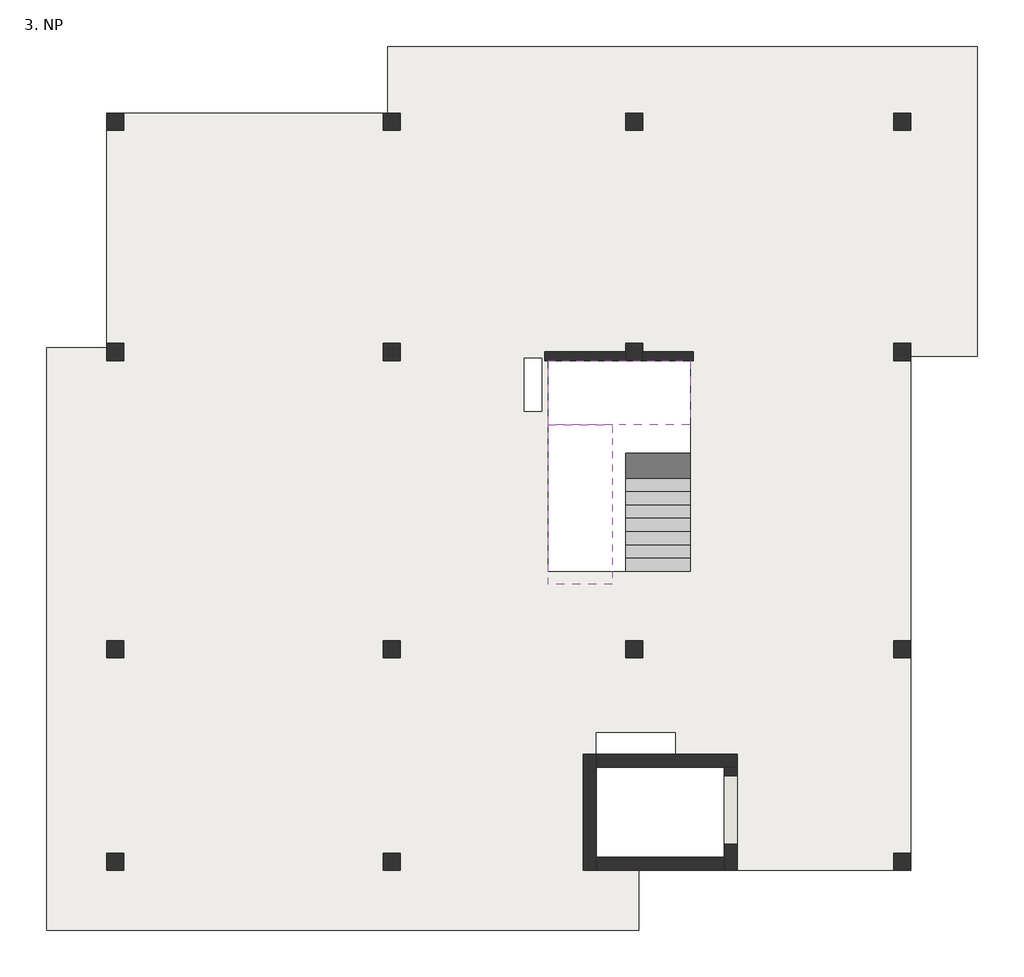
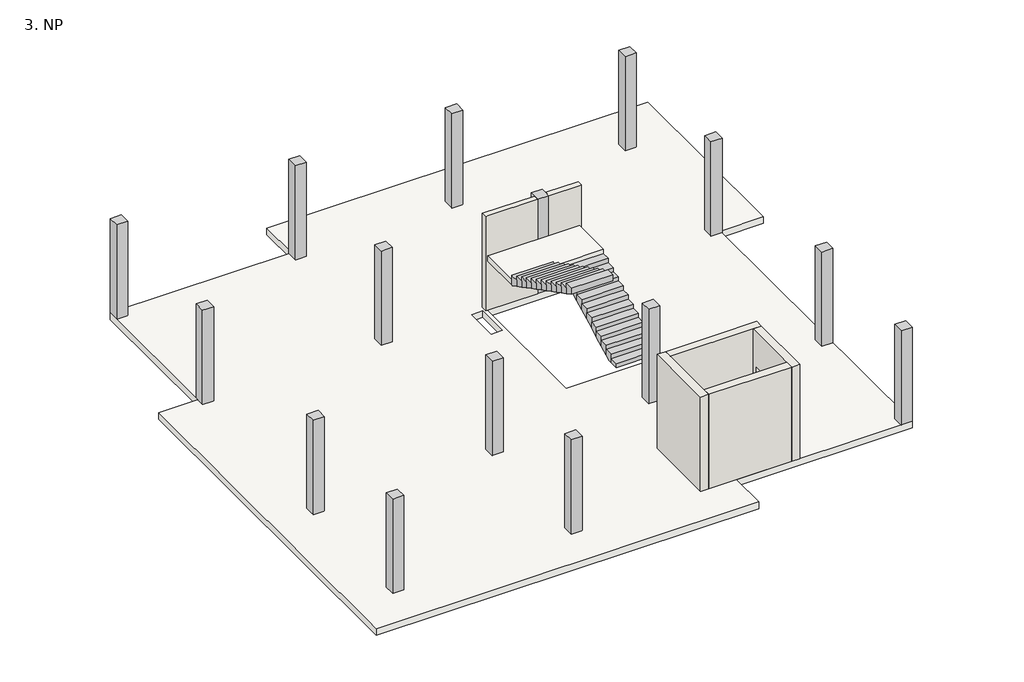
# One storey: 15 columns, 6 walls, 2 slabs, 2 stair flights.
"""IFC4 building model written with IfcOpenShell, lengths in millimetres."""

from ifc_helpers import new_model, si_unit, frame, origin, place, context, project, spatial, polyline, outline, extrude, faceted_brep, element, save

model = new_model("IFC4")

# Units and contexts
model_context = context("Model", 3, world=origin())
ifc_project = project(units=[si_unit("LENGTHUNIT", "METRE", prefix="MILLI")], contexts=[model_context])

# Site, building, storey
site = spatial("IfcSite", under=ifc_project)
building = spatial("IfcBuilding", under=site)
storey = spatial("IfcBuildingStorey", under=building, Name="3. NP", Elevation=9000.0)

# Columns
placement = place(None, origin())
element("IfcColumn", 1, ObjectType="K_Sloup obdélník : 400 x 400 mm", at=placement, inside=storey, context=model_context, shape_type="SweptSolid", body=[
    extrude(outline(polyline([(-9527.9308562, -5396.7473289), (-9527.9308562, -5796.7473289), (-9927.9308562, -5796.7473289), (-9927.9308562, -5396.7473289), (-9527.9308562, -5396.7473289)])), frame((0.0, 0.0, 8850.0), z_axis=(0.0, 0.0, 1.0), x_axis=(1.0, 0.0, 0.0)), (0.0, 0.0, 1.0), 3600.0),
])
element("IfcColumn", 2, ObjectType="K_Sloup obdélník : 400 x 400 mm", at=placement, inside=storey, context=model_context, shape_type="SweptSolid", body=[
    extrude(outline(polyline([(-3077.9308562, -5396.7473289), (-3077.9308562, -5796.7473289), (-3477.9308562, -5796.7473289), (-3477.9308562, -5396.7473289), (-3077.9308562, -5396.7473289)])), frame((0.0, 0.0, 8850.0), z_axis=(0.0, 0.0, 1.0), x_axis=(1.0, 0.0, 0.0)), (0.0, 0.0, 1.0), 3600.0),
])
element("IfcColumn", 3, ObjectType="K_Sloup obdélník : 400 x 400 mm", at=placement, inside=storey, context=model_context, shape_type="SweptSolid", body=[
    extrude(outline(polyline([(8822.0691438, -5396.7473289), (8822.0691438, -5796.7473289), (8422.0691438, -5796.7473289), (8422.0691438, -5396.7473289), (8822.0691438, -5396.7473289)])), frame((0.0, 0.0, 8850.0), z_axis=(0.0, 0.0, 1.0), x_axis=(1.0, 0.0, 0.0)), (0.0, 0.0, 1.0), 3600.0),
])
element("IfcColumn", 4, ObjectType="K_Sloup obdélník : 400 x 400 mm", at=placement, inside=storey, context=model_context, shape_type="SweptSolid", body=[
    extrude(outline(polyline([(-9527.9308562, -446.7473314), (-9527.9308562, -846.7473314), (-9927.9308562, -846.7473314), (-9927.9308562, -446.7473314), (-9527.9308562, -446.7473314)])), frame((0.0, 0.0, 8850.0), z_axis=(0.0, 0.0, 1.0), x_axis=(1.0, 0.0, 0.0)), (0.0, 0.0, 1.0), 3600.0),
])
element("IfcColumn", 5, ObjectType="K_Sloup obdélník : 400 x 400 mm", at=placement, inside=storey, context=model_context, shape_type="SweptSolid", body=[
    extrude(outline(polyline([(-3077.9308562, -446.7473314), (-3077.9308562, -846.7473314), (-3477.9308562, -846.7473314), (-3477.9308562, -446.7473314), (-3077.9308562, -446.7473314)])), frame((0.0, 0.0, 8850.0), z_axis=(0.0, 0.0, 1.0), x_axis=(1.0, 0.0, 0.0)), (0.0, 0.0, 1.0), 3600.0),
])
element("IfcColumn", 6, ObjectType="K_Sloup obdélník : 400 x 400 mm", at=placement, inside=storey, context=model_context, shape_type="SweptSolid", body=[
    extrude(outline(polyline([(8822.0691438, -446.7473314), (8822.0691438, -846.7473314), (8422.0691438, -846.7473314), (8422.0691438, -446.7473314), (8822.0691438, -446.7473314)])), frame((0.0, 0.0, 8850.0), z_axis=(0.0, 0.0, 1.0), x_axis=(1.0, 0.0, 0.0)), (0.0, 0.0, 1.0), 3600.0),
])
element("IfcColumn", 7, ObjectType="K_Sloup obdélník : 400 x 400 mm", at=placement, inside=storey, context=model_context, shape_type="SweptSolid", body=[
    extrude(outline(polyline([(-9527.9308562, 6483.2526657), (-9527.9308562, 6083.2526657), (-9927.9308562, 6083.2526657), (-9927.9308562, 6483.2526657), (-9527.9308562, 6483.2526657)])), frame((0.0, 0.0, 8850.0), z_axis=(0.0, 0.0, 1.0), x_axis=(1.0, 0.0, 0.0)), (0.0, 0.0, 1.0), 3600.0),
])
element("IfcColumn", 8, ObjectType="K_Sloup obdélník : 400 x 400 mm", at=placement, inside=storey, context=model_context, shape_type="SweptSolid", body=[
    extrude(outline(polyline([(-3077.9308562, 6483.2526657), (-3077.9308562, 6083.2526657), (-3477.9308562, 6083.2526657), (-3477.9308562, 6483.2526657), (-3077.9308562, 6483.2526657)])), frame((0.0, 0.0, 8850.0), z_axis=(0.0, 0.0, 1.0), x_axis=(1.0, 0.0, 0.0)), (0.0, 0.0, 1.0), 3600.0),
])
element("IfcColumn", 9, ObjectType="K_Sloup obdélník : 400 x 400 mm", at=placement, inside=storey, context=model_context, shape_type="SweptSolid", body=[
    extrude(outline(polyline([(2572.0691438, 6483.2526657), (2572.0691438, 6083.2526657), (2172.0691438, 6083.2526657), (2172.0691438, 6483.2526657), (2572.0691438, 6483.2526657)])), frame((0.0, 0.0, 8850.0), z_axis=(0.0, 0.0, 1.0), x_axis=(1.0, 0.0, 0.0)), (0.0, 0.0, 1.0), 3600.0),
])
element("IfcColumn", 10, ObjectType="K_Sloup obdélník : 400 x 400 mm", at=placement, inside=storey, context=model_context, shape_type="SweptSolid", body=[
    extrude(outline(polyline([(8822.0691438, 6483.2526657), (8822.0691438, 6083.2526657), (8422.0691438, 6083.2526657), (8422.0691438, 6483.2526657), (8822.0691438, 6483.2526657)])), frame((0.0, 0.0, 8850.0), z_axis=(0.0, 0.0, 1.0), x_axis=(1.0, 0.0, 0.0)), (0.0, 0.0, 1.0), 3600.0),
])
element("IfcColumn", 11, ObjectType="K_Sloup obdélník : 400 x 400 mm", at=placement, inside=storey, context=model_context, shape_type="SweptSolid", body=[
    extrude(outline(polyline([(-9527.9308562, 11853.2526657), (-9527.9308562, 11453.2526657), (-9927.9308562, 11453.2526657), (-9927.9308562, 11853.2526657), (-9527.9308562, 11853.2526657)])), frame((0.0, 0.0, 8850.0), z_axis=(0.0, 0.0, 1.0), x_axis=(1.0, 0.0, 0.0)), (0.0, 0.0, 1.0), 3600.0),
])
element("IfcColumn", 12, ObjectType="K_Sloup obdélník : 400 x 400 mm", at=placement, inside=storey, context=model_context, shape_type="SweptSolid", body=[
    extrude(outline(polyline([(-3077.9308562, 11853.2526657), (-3077.9308562, 11453.2526657), (-3477.9308562, 11453.2526657), (-3477.9308562, 11853.2526657), (-3077.9308562, 11853.2526657)])), frame((0.0, 0.0, 8850.0), z_axis=(0.0, 0.0, 1.0), x_axis=(1.0, 0.0, 0.0)), (0.0, 0.0, 1.0), 3600.0),
])
element("IfcColumn", 13, ObjectType="K_Sloup obdélník : 400 x 400 mm", at=placement, inside=storey, context=model_context, shape_type="SweptSolid", body=[
    extrude(outline(polyline([(2572.0691438, 11853.2526657), (2572.0691438, 11453.2526657), (2172.0691438, 11453.2526657), (2172.0691438, 11853.2526657), (2572.0691438, 11853.2526657)])), frame((0.0, 0.0, 8850.0), z_axis=(0.0, 0.0, 1.0), x_axis=(1.0, 0.0, 0.0)), (0.0, 0.0, 1.0), 3600.0),
])
element("IfcColumn", 14, ObjectType="K_Sloup obdélník : 400 x 400 mm", at=placement, inside=storey, context=model_context, shape_type="SweptSolid", body=[
    extrude(outline(polyline([(8822.0691438, 11853.2526657), (8822.0691438, 11453.2526657), (8422.0691438, 11453.2526657), (8422.0691438, 11853.2526657), (8822.0691438, 11853.2526657)])), frame((0.0, 0.0, 8850.0), z_axis=(0.0, 0.0, 1.0), x_axis=(1.0, 0.0, 0.0)), (0.0, 0.0, 1.0), 3600.0),
])
element("IfcColumn", 15, ObjectType="K_Sloup obdélník : 400 x 400 mm", at=placement, inside=storey, context=model_context, shape_type="SweptSolid", body=[
    extrude(outline(polyline([(2572.0691438, -446.7473314), (2572.0691438, -846.7473314), (2172.0691438, -846.7473314), (2172.0691438, -446.7473314), (2572.0691438, -446.7473314)])), frame((0.0, 0.0, 8850.0), z_axis=(0.0, 0.0, 1.0), x_axis=(1.0, 0.0, 0.0)), (0.0, 0.0, 1.0), 3600.0),
])

# Slabs
element("IfcSlab", 16, ObjectType="Železobetnová stropní deska tl. 250 mm", at=placement, inside=storey, context=model_context, shape_type="SweptSolid", body=[
    extrude(outline(polyline([(-9927.9308562, 11853.2526657), (-3377.9308562, 11853.2526657), (-3377.9308562, 13403.2526657), (10372.0691438, 13403.2526657), (10372.0691438, 6183.2526657), (8822.0691438, 6183.2526657), (8822.0691438, -5796.7473289), (2472.4108801, -5796.7473289), (2472.4108801, -7196.7473343), (-11327.9308562, -7196.7473343), (-11327.9308562, 6383.2526657), (-9927.9308562, 6383.2526657), (-9927.9308562, 11853.2526657)]), holes=[polyline([(4472.0691438, -3396.7473289), (1482.0691438, -3396.7473289), (1482.0691438, -5496.7473289), (4472.0691438, -5496.7473289), (4472.0691438, -3396.7473289)]), polyline([(3672.0691438, 6083.2526711), (362.0691438, 6083.2526711), (362.0691438, 1173.2526711), (3672.0691438, 1173.2526711), (3672.0691438, 6083.2526711)]), polyline([(3332.0691438, -2596.7473289), (1482.0691438, -2596.7473289), (1482.0691438, -3096.7473289), (3332.0691438, -3096.7473289), (3332.0691438, -2596.7473289)]), polyline([(212.0691438, 6133.2526711), (-187.9308562, 6133.2526711), (-187.9308562, 4903.2526657), (212.0691438, 4903.2526657), (212.0691438, 6133.2526711)])]), frame((0.0, 0.0, 8600.0), z_axis=(0.0, 0.0, 1.0), x_axis=(1.0, 0.0, 0.0)), (0.0, 0.0, 1.0), 250.0),
])
element("IfcSlab", 17, ObjectType="200 mm", at=placement, inside=storey, context=model_context, shape_type="Brep", body=[
    faceted_brep([(2172.0691438, 4583.2526711, 10925.0), (3672.0691438, 4583.2526711, 10925.0), (3672.0691438, 4941.934107, 10925.0), (3672.0691438, 6083.2526711, 10925.0), (362.0691438, 6083.2526711, 10925.0), (362.0691438, 4583.2526711, 10925.0), (1862.0691438, 4583.2526711, 10925.0), (2172.0691438, 4583.2526711, 10725.0), (2172.0691438, 4583.2526711, 10539.3919989), (3672.0691438, 4583.2526711, 10539.3919989), (3672.0691438, 4583.2526711, 10764.5833333), (1862.0691438, 4583.2526711, 10725.0), (362.0691438, 4583.2526711, 10725.0), (362.0691438, 6083.2526711, 10725.0), (3672.0691438, 6083.2526711, 10725.0), (3672.0691438, 4941.934107, 10725.0), (2172.0691438, 4941.934107, 10725.0)], [[[0, 1, 2, 3, 4, 5, 6]], [[1, 0, 7, 8, 9, 10]], [[0, 6, 11, 7]], [[6, 5, 12, 11]], [[5, 4, 13, 12]], [[4, 3, 14, 13]], [[1, 10, 9, 15, 14, 3, 2]], [[15, 16, 7, 11, 12, 13, 14]], [[16, 15, 9, 8]], [[7, 16, 8]]]),
])

# Stair flights
element("IfcStairFlight", 18, ObjectType="200 mm", at=placement, inside=storey, context=model_context, shape_type="Brep", body=[
    faceted_brep([(2172.0691438, 1483.2526711, 9160.4166667), (2172.0691438, 1173.2526711, 9160.4166667), (3672.0691438, 1173.2526711, 9160.4166667), (3672.0691438, 1483.2526711, 9160.4166667), (3672.0691438, 1173.2526711, 9000.0), (3672.0691438, 1483.2526711, 9000.0), (2172.0691438, 1173.2526711, 9000.0), (2172.0691438, 1483.2526711, 9000.0), (2172.0691438, 1793.2526711, 9320.8333333), (2172.0691438, 1483.2526711, 9320.8333333), (3672.0691438, 1483.2526711, 9320.8333333), (3672.0691438, 1793.2526711, 9320.8333333), (3672.0691438, 1608.4276135, 9000.0), (3672.0691438, 1793.2526711, 9095.6419989), (2172.0691438, 1793.2526711, 9095.6419989), (2172.0691438, 1608.4276135, 9000.0), (2172.0691438, 2103.2526711, 9481.25), (2172.0691438, 1793.2526711, 9481.25), (3672.0691438, 1793.2526711, 9481.25), (3672.0691438, 2103.2526711, 9481.25), (3672.0691438, 2103.2526711, 9256.0586655), (2172.0691438, 2103.2526711, 9256.0586655), (2172.0691438, 2413.2526711, 9641.6666667), (2172.0691438, 2103.2526711, 9641.6666667), (3672.0691438, 2103.2526711, 9641.6666667), (3672.0691438, 2413.2526711, 9641.6666667), (3672.0691438, 2413.2526711, 9416.4753322), (2172.0691438, 2413.2526711, 9416.4753322), (2172.0691438, 2723.2526711, 9802.0833333), (2172.0691438, 2413.2526711, 9802.0833333), (3672.0691438, 2413.2526711, 9802.0833333), (3672.0691438, 2723.2526711, 9802.0833333), (3672.0691438, 2723.2526711, 9576.8919989), (2172.0691438, 2723.2526711, 9576.8919989), (2172.0691438, 3033.2526711, 9962.5), (2172.0691438, 2723.2526711, 9962.5), (3672.0691438, 2723.2526711, 9962.5), (3672.0691438, 3033.2526711, 9962.5), (3672.0691438, 3033.2526711, 9737.3086655), (2172.0691438, 3033.2526711, 9737.3086655), (2172.0691438, 3343.2526711, 10122.9166667), (2172.0691438, 3033.2526711, 10122.9166667), (3672.0691438, 3033.2526711, 10122.9166667), (3672.0691438, 3343.2526711, 10122.9166667), (3672.0691438, 3343.2526711, 9897.7253322), (2172.0691438, 3343.2526711, 9897.7253322), (2172.0691438, 3653.2526711, 10283.3333333), (2172.0691438, 3343.2526711, 10283.3333333), (3672.0691438, 3343.2526711, 10283.3333333), (3672.0691438, 3653.2526711, 10283.3333333), (3672.0691438, 3653.2526711, 10058.1419989), (2172.0691438, 3653.2526711, 10058.1419989), (2172.0691438, 3963.2526711, 10443.75), (2172.0691438, 3653.2526711, 10443.75), (3672.0691438, 3653.2526711, 10443.75), (3672.0691438, 3963.2526711, 10443.75), (3672.0691438, 3963.2526711, 10218.5586655), (2172.0691438, 3963.2526711, 10218.5586655), (2172.0691438, 4273.2526711, 10604.1666667), (2172.0691438, 3963.2526711, 10604.1666667), (3672.0691438, 3963.2526711, 10604.1666667), (3672.0691438, 4273.2526711, 10604.1666667), (3672.0691438, 4273.2526711, 10378.9753322), (2172.0691438, 4273.2526711, 10378.9753322), (2172.0691438, 4583.2526711, 10764.5833333), (2172.0691438, 4273.2526711, 10764.5833333), (3672.0691438, 4273.2526711, 10764.5833333), (3672.0691438, 4583.2526711, 10764.5833333), (3672.0691438, 4583.2526711, 10539.3919989), (2172.0691438, 4583.2526711, 10725.0), (2172.0691438, 4583.2526711, 10539.3919989)], [[[0, 1, 2, 3]], [[3, 2, 4, 5]], [[2, 1, 6, 4]], [[1, 0, 7, 6]], [[8, 9, 10, 11]], [[3, 5, 12, 13, 11, 10]], [[0, 3, 10, 9]], [[7, 0, 9, 8, 14, 15]], [[16, 17, 18, 19]], [[19, 18, 11, 13, 20]], [[8, 11, 18, 17]], [[17, 16, 21, 14, 8]], [[22, 23, 24, 25]], [[25, 24, 19, 20, 26]], [[16, 19, 24, 23]], [[23, 22, 27, 21, 16]], [[28, 29, 30, 31]], [[31, 30, 25, 26, 32]], [[22, 25, 30, 29]], [[29, 28, 33, 27, 22]], [[34, 35, 36, 37]], [[37, 36, 31, 32, 38]], [[28, 31, 36, 35]], [[35, 34, 39, 33, 28]], [[40, 41, 42, 43]], [[43, 42, 37, 38, 44]], [[34, 37, 42, 41]], [[41, 40, 45, 39, 34]], [[46, 47, 48, 49]], [[49, 48, 43, 44, 50]], [[40, 43, 48, 47]], [[47, 46, 51, 45, 40]], [[52, 53, 54, 55]], [[55, 54, 49, 50, 56]], [[46, 49, 54, 53]], [[53, 52, 57, 51, 46]], [[58, 59, 60, 61]], [[61, 60, 55, 56, 62]], [[52, 55, 60, 59]], [[59, 58, 63, 57, 52]], [[64, 65, 66, 67]], [[67, 66, 61, 62, 68]], [[58, 61, 66, 65]], [[65, 64, 69, 70, 63, 58]], [[64, 67, 68, 70, 69]], [[6, 7, 15, 12, 5, 4]], [[12, 15, 14, 21, 27, 33, 39, 45, 51, 57, 63, 70, 68, 62, 56, 50, 44, 38, 32, 26, 20, 13]]]),
])
element("IfcStairFlight", 19, ObjectType="200 mm", at=placement, inside=storey, context=model_context, shape_type="Brep", body=[
    faceted_brep([(1862.0691438, 4583.2526711, 11085.4166667), (362.0691438, 4583.2526711, 11085.4166667), (362.0691438, 4534.5712351, 11085.4166667), (362.0691438, 4273.2526711, 11085.4166667), (1862.0691438, 4273.2526711, 11085.4166667), (1862.0691438, 4534.5712351, 11085.4166667), (362.0691438, 4583.2526711, 10925.0), (362.0691438, 4583.2526711, 10725.0), (362.0691438, 4534.5712351, 10725.0), (362.0691438, 4273.2526711, 10860.2253322), (1862.0691438, 4583.2526711, 10725.0), (1862.0691438, 4273.2526711, 10860.2253322), (1862.0691438, 4534.5712351, 10725.0), (1862.0691438, 3963.2526711, 11245.8333333), (1862.0691438, 4273.2526711, 11245.8333333), (362.0691438, 4273.2526711, 11245.8333333), (362.0691438, 3963.2526711, 11245.8333333), (362.0691438, 3963.2526711, 11020.6419989), (1862.0691438, 3963.2526711, 11020.6419989), (1862.0691438, 3653.2526711, 11406.25), (1862.0691438, 3963.2526711, 11406.25), (362.0691438, 3963.2526711, 11406.25), (362.0691438, 3653.2526711, 11406.25), (362.0691438, 3653.2526711, 11181.0586655), (1862.0691438, 3653.2526711, 11181.0586655), (1862.0691438, 3343.2526711, 11566.6666667), (1862.0691438, 3653.2526711, 11566.6666667), (362.0691438, 3653.2526711, 11566.6666667), (362.0691438, 3343.2526711, 11566.6666667), (362.0691438, 3343.2526711, 11341.4753322), (1862.0691438, 3343.2526711, 11341.4753322), (1862.0691438, 3033.2526711, 11727.0833333), (1862.0691438, 3343.2526711, 11727.0833333), (362.0691438, 3343.2526711, 11727.0833333), (362.0691438, 3033.2526711, 11727.0833333), (362.0691438, 3033.2526711, 11501.8919989), (1862.0691438, 3033.2526711, 11501.8919989), (1862.0691438, 2723.2526711, 11887.5), (1862.0691438, 3033.2526711, 11887.5), (362.0691438, 3033.2526711, 11887.5), (362.0691438, 2723.2526711, 11887.5), (362.0691438, 2723.2526711, 11662.3086655), (1862.0691438, 2723.2526711, 11662.3086655), (1862.0691438, 2413.2526711, 12047.9166667), (1862.0691438, 2723.2526711, 12047.9166667), (362.0691438, 2723.2526711, 12047.9166667), (362.0691438, 2413.2526711, 12047.9166667), (362.0691438, 2413.2526711, 11822.7253322), (1862.0691438, 2413.2526711, 11822.7253322), (1862.0691438, 2103.2526711, 12208.3333333), (1862.0691438, 2413.2526711, 12208.3333333), (362.0691438, 2413.2526711, 12208.3333333), (362.0691438, 2103.2526711, 12208.3333333), (362.0691438, 2103.2526711, 11983.1419989), (1862.0691438, 2103.2526711, 11983.1419989), (1862.0691438, 1793.2526711, 12368.75), (1862.0691438, 2103.2526711, 12368.75), (362.0691438, 2103.2526711, 12368.75), (362.0691438, 1793.2526711, 12368.75), (362.0691438, 1793.2526711, 12143.5586655), (1862.0691438, 1793.2526711, 12143.5586655), (1862.0691438, 1483.2526711, 12529.1666667), (1862.0691438, 1793.2526711, 12529.1666667), (362.0691438, 1793.2526711, 12529.1666667), (362.0691438, 1483.2526711, 12529.1666667), (362.0691438, 1483.2526711, 12303.9753322), (1862.0691438, 1483.2526711, 12303.9753322), (1862.0691438, 1173.2526711, 12689.5833333), (1862.0691438, 1483.2526711, 12689.5833333), (362.0691438, 1483.2526711, 12689.5833333), (362.0691438, 1173.2526711, 12689.5833333), (362.0691438, 1173.2526711, 12464.3919989), (1862.0691438, 1173.2526711, 12464.3919989), (1862.0691438, 863.2526711, 12850.0), (1862.0691438, 1173.2526711, 12850.0), (362.0691438, 1173.2526711, 12850.0), (362.0691438, 863.2526711, 12850.0), (362.0691438, 863.2526711, 12624.8086655), (1862.0691438, 863.2526711, 12624.8086655)], [[[0, 1, 2, 3, 4, 5]], [[1, 6, 7, 8, 9, 3, 2]], [[1, 0, 10, 7, 6]], [[4, 11, 12, 10, 0, 5]], [[13, 14, 15, 16]], [[16, 15, 3, 9, 17]], [[15, 14, 4, 3]], [[14, 13, 18, 11, 4]], [[19, 20, 21, 22]], [[22, 21, 16, 17, 23]], [[21, 20, 13, 16]], [[20, 19, 24, 18, 13]], [[25, 26, 27, 28]], [[28, 27, 22, 23, 29]], [[27, 26, 19, 22]], [[26, 25, 30, 24, 19]], [[31, 32, 33, 34]], [[34, 33, 28, 29, 35]], [[33, 32, 25, 28]], [[32, 31, 36, 30, 25]], [[37, 38, 39, 40]], [[40, 39, 34, 35, 41]], [[39, 38, 31, 34]], [[38, 37, 42, 36, 31]], [[43, 44, 45, 46]], [[46, 45, 40, 41, 47]], [[45, 44, 37, 40]], [[44, 43, 48, 42, 37]], [[49, 50, 51, 52]], [[52, 51, 46, 47, 53]], [[51, 50, 43, 46]], [[50, 49, 54, 48, 43]], [[55, 56, 57, 58]], [[58, 57, 52, 53, 59]], [[57, 56, 49, 52]], [[56, 55, 60, 54, 49]], [[61, 62, 63, 64]], [[64, 63, 58, 59, 65]], [[63, 62, 55, 58]], [[62, 61, 66, 60, 55]], [[67, 68, 69, 70]], [[70, 69, 64, 65, 71]], [[69, 68, 61, 64]], [[68, 67, 72, 66, 61]], [[73, 74, 75, 76]], [[76, 75, 70, 71, 77]], [[75, 74, 67, 70]], [[74, 73, 78, 72, 67]], [[73, 76, 77, 78]], [[8, 12, 11, 18, 24, 30, 36, 42, 48, 54, 60, 66, 72, 78, 77, 71, 65, 59, 53, 47, 41, 35, 29, 23, 17, 9]], [[12, 8, 7, 10]]]),
])

# Walls
element("IfcWall", 20, ObjectType="Železobetonové zdivo tl. 300 mm", at=placement, inside=storey, context=model_context, shape_type="Brep", body=[
    faceted_brep([(1482.0691438, -5796.7473289, 8850.0), (1482.0691438, -5496.7473289, 8850.0), (1482.0691438, -3396.7473289, 8850.0), (1482.0691438, -3096.7473289, 8850.0), (1482.0691438, -3096.7473289, 12450.0), (1482.0691438, -3396.7473289, 12450.0), (1482.0691438, -5496.7473289, 12450.0), (1482.0691438, -5796.7473289, 12450.0), (1182.0691438, -5796.7473289, 8850.0), (1182.0691438, -5796.7473289, 12450.0), (1182.0691438, -3096.7473289, 12450.0), (1182.0691438, -3096.7473289, 8850.0)], [[[0, 1, 2, 3, 4, 5, 6, 7]], [[8, 9, 10, 11]], [[7, 6, 5, 4, 10, 9]], [[3, 2, 1, 0, 8, 11]], [[4, 3, 11, 10]], [[0, 7, 9, 8]]]),
])
element("IfcWall", 21, ObjectType="Železobetonové zdivo tl. 300 mm", at=placement, inside=storey, context=model_context, shape_type="Brep", body=[
    faceted_brep([(1482.0691438, -3396.7473289, 8850.0), (4472.0691438, -3396.7473289, 8850.0), (4772.0691438, -3396.7473289, 8850.0), (4772.0691438, -3396.7473289, 12450.0), (4472.0691438, -3396.7473289, 12450.0), (1482.0691438, -3396.7473289, 12450.0), (1482.0691438, -3096.7473289, 8850.0), (1482.0691438, -3096.7473289, 12450.0), (3332.0691438, -3096.7473289, 12450.0), (4772.0691438, -3096.7473289, 12450.0), (4772.0691438, -3096.7473289, 8850.0), (3332.0691438, -3096.7473289, 8850.0)], [[[0, 1, 2, 3, 4, 5]], [[6, 7, 8, 9, 10, 11]], [[2, 1, 0, 6, 11, 10]], [[5, 4, 3, 9, 8, 7]], [[3, 2, 10, 9]], [[0, 5, 7, 6]]]),
])
element("IfcWall", 22, ObjectType="Železobetonové zdivo tl. 300 mm", at=placement, inside=storey, context=model_context, shape_type="Brep", body=[
    faceted_brep([(4472.0691438, -5796.7473289, 12450.0), (4472.0691438, -5496.7473289, 12450.0), (4472.0691438, -3396.7473289, 12450.0), (4472.0691438, -3396.7473289, 8850.0), (4472.0691438, -5496.7473289, 8850.0), (4472.0691438, -5796.7473289, 8850.0), (4472.0691438, -3596.7473289, 11100.0), (4472.0691438, -5196.7473289, 11100.0), (4472.0691438, -5196.7473289, 9000.0), (4472.0691438, -3596.7473289, 9000.0), (4772.0691438, -5796.7473289, 8850.0), (4772.0691438, -3396.7473289, 8850.0), (4772.0691438, -3396.7473289, 12450.0), (4772.0691438, -5796.7473289, 12450.0), (4772.0691438, -5196.7473289, 11100.0), (4772.0691438, -3596.7473289, 11100.0), (4772.0691438, -3596.7473289, 9000.0), (4772.0691438, -5196.7473289, 9000.0)], [[[0, 1, 2, 3, 4, 5], [6, 7, 8, 9]], [[10, 11, 12, 13], [14, 15, 16, 17]], [[13, 12, 2, 1, 0]], [[11, 10, 5, 4, 3]], [[0, 5, 10, 13]], [[3, 2, 12, 11]], [[6, 15, 14, 7]], [[7, 14, 17, 8]], [[8, 17, 16, 9]], [[15, 6, 9, 16]]]),
])
element("IfcWall", 23, ObjectType="Železobetonové zdivo tl. 200 mm", at=placement, inside=storey, context=model_context, shape_type="Brep", body=[
    faceted_brep([(2572.0691438, 6083.2526711, 8850.0), (3747.0691438, 6083.2526711, 8850.0), (3747.0691438, 6083.2526711, 12450.0), (3672.0691438, 6083.2526711, 12450.0), (2572.0691438, 6083.2526711, 12450.0), (2572.0691438, 6283.2526711, 8850.0), (2572.0691438, 6283.2526711, 12450.0), (3747.0691438, 6283.2526711, 12450.0), (3747.0691438, 6283.2526711, 8850.0)], [[[0, 1, 2, 3, 4]], [[5, 6, 7, 8]], [[1, 0, 5, 8]], [[2, 1, 8, 7]], [[0, 4, 6, 5]], [[4, 3, 2, 7, 6]]]),
])
element("IfcWall", 24, ObjectType="Železobetonové zdivo tl. 300 mm", at=placement, inside=storey, context=model_context, shape_type="Brep", body=[
    faceted_brep([(4472.0691438, -5496.7473289, 8850.0), (1482.0691438, -5496.7473289, 8850.0), (1482.0691438, -5496.7473289, 12450.0), (4472.0691438, -5496.7473289, 12450.0), (4472.0691438, -5796.7473289, 8850.0), (4472.0691438, -5796.7473289, 12450.0), (2472.0691438, -5796.7473289, 12450.0), (1482.0691438, -5796.7473289, 12450.0), (1482.0691438, -5796.7473289, 8850.0), (2472.4108801, -5796.7473289, 8850.0)], [[[0, 1, 2, 3]], [[4, 5, 6, 7, 8, 9]], [[3, 2, 7, 6, 5]], [[1, 0, 4, 9, 8]], [[0, 3, 5, 4]], [[2, 1, 8, 7]]]),
])
element("IfcWall", 25, ObjectType="Železobetonové zdivo tl. 200 mm", at=placement, inside=storey, context=model_context, shape_type="Brep", body=[
    faceted_brep([(287.0691438, 6083.2526711, 8850.0), (2172.0691438, 6083.2526711, 8850.0), (2172.0691438, 6083.2526711, 12450.0), (362.0691438, 6083.2526711, 12450.0), (287.0691438, 6083.2526711, 12450.0), (287.0691438, 6283.2526711, 8850.0), (287.0691438, 6283.2526711, 12450.0), (2172.0691438, 6283.2526711, 12450.0), (2172.0691438, 6283.2526711, 8850.0)], [[[0, 1, 2, 3, 4]], [[5, 6, 7, 8]], [[1, 0, 5, 8]], [[2, 1, 8, 7]], [[0, 4, 6, 5]], [[4, 3, 2, 7, 6]]]),
])

save(model, "model.ifc")
